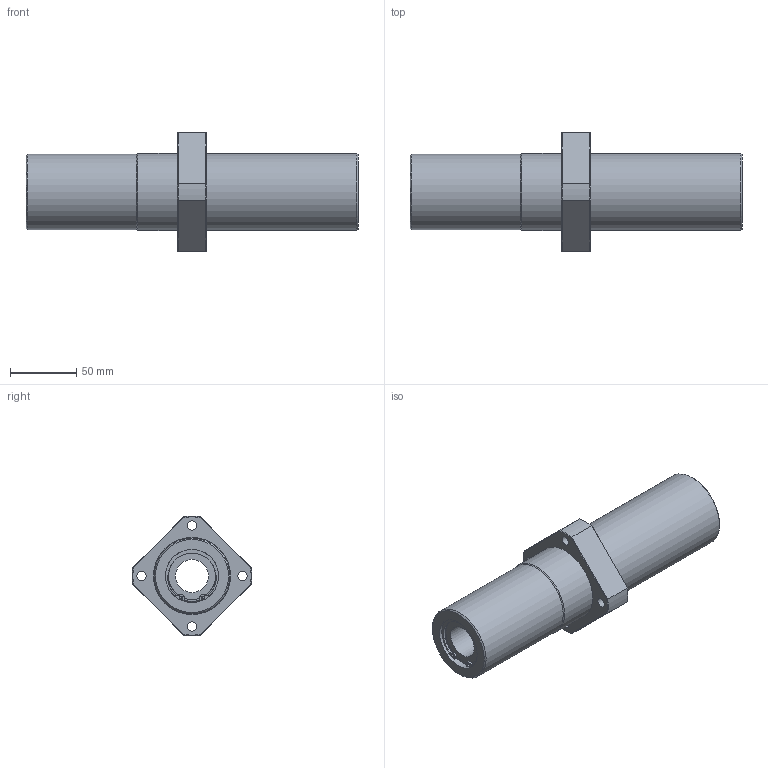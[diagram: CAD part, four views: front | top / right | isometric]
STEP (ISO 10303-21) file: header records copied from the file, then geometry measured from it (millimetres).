
FILE_DESCRIPTION((''),'2;1');
FILE_NAME('C:\Documents and Settings\土屋\My Documents\土屋移動用フォルダ\製品 (図面)\カタログ用3D\変換ファイル\OZAK_3D-CAD(STEP形式)\Part1.-Linear Bearings_ﾘﾆｱﾍﾞｱﾘﾝｸﾞ\09_Maintenance Free_ﾒｲﾝﾃﾅﾝｽﾌﾘｰ\L2017-09-22T14:15:22','2017-09-22T14:15:22',('y'),(''),'Autodesk Inventor 11','Autodesk Inventor 11','');
FILE_SCHEMA(('AUTOMOTIVE_DESIGN { 1 0 10303 214 1 1 1 1 }'));
Length unit declared in the file: millimetre
Products named in the file (1): LFWLC25MF
Bounding box: 250 x 89.9 x 89.9 mm (x, y, z)
Volume: 572284.1 mm3; surface area: 84429.1 mm2
Topology: 1 solids, 7 shells, 115 faces, 281 edges, 170 vertices
Faces by surface type: plane 36, bspline 34, cylinder 32, cone 11, torus 2
Full cylindrical faces by diameter (mm): 2.5 x2, 7 x4, 25 x2, 35.3 x2, 38 x2, 40 x8, 57 x1, 58 x2
Entity records: 3405 total; most frequent: CARTESIAN_POINT 896, DIRECTION 532, ORIENTED_EDGE 452, AXIS2_PLACEMENT_3D 240, EDGE_CURVE 226, EDGE_LOOP 186, CIRCLE 158, VERTEX_POINT 154
